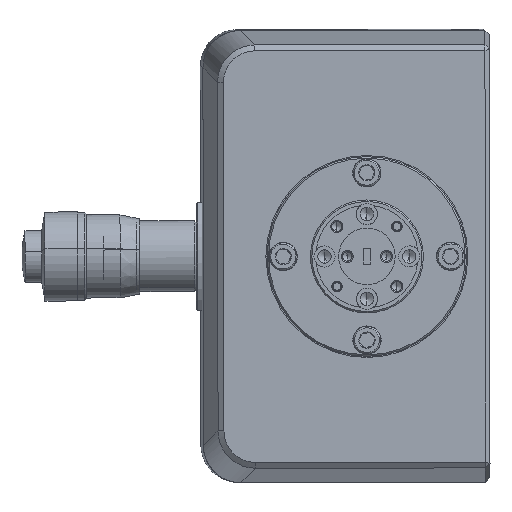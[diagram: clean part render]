
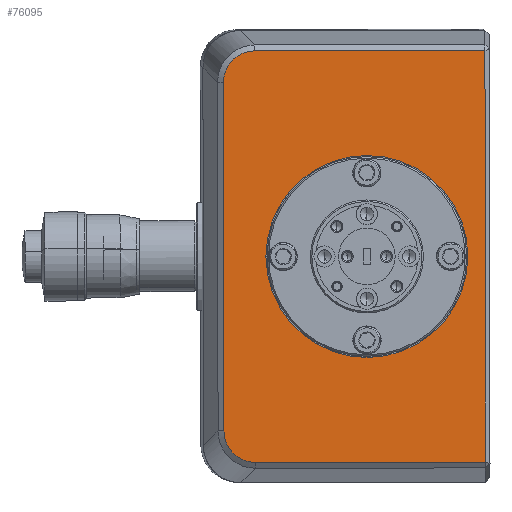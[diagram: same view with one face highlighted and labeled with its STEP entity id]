
A CAD part, left-side view. The second image highlights one B-rep face of the part: STEP entity #76095.
In plain terms, the highlighted planar face has unit normal (-1, -0.002, -0.001).
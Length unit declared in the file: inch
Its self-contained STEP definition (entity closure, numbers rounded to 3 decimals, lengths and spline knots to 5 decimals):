
#1186 = DIRECTION ( 'NONE',  ( -0.002, 1., -0.001 ) ) ;
#1215 = CARTESIAN_POINT ( 'NONE',  ( -3.34511, -6.6654, -0.16327 ) ) ;
#1710 = CIRCLE ( 'NONE', #34178, 0.67 ) ;
#5741 = DIRECTION ( 'NONE',  ( 0.001, -0.001, -1. ) ) ;
#6827 = CARTESIAN_POINT ( 'NONE',  ( -3.34498, -6.81907, 0.04042 ) ) ;
#7328 = CARTESIAN_POINT ( 'NONE',  ( -3.34507, -6.74541, 0.00403 ) ) ;
#7867 = B_SPLINE_CURVE_WITH_KNOTS ( 'NONE', 3,
 ( #22843, #99735, #23359, #92108, #21352, #15194, #75880, #92587, #76367, #22307 ),
 .UNSPECIFIED., .F., .F.,
 ( 4, 2, 2, 2, 4 ),
 ( 0., 0.25, 0.5, 0.75, 1. ),
 .UNSPECIFIED. ) ;
#8793 = CARTESIAN_POINT ( 'NONE',  ( -3.34394, -7.4802, 0.04671 ) ) ;
#10220 = VERTEX_POINT ( 'NONE', #38949 ) ;
#11951 = CARTESIAN_POINT ( 'NONE',  ( -3.34251, -8.4002, 0.0479 ) ) ;
#12339 = EDGE_CURVE ( 'NONE', #98410, #79835, #44310, .T. ) ;
#13694 = CARTESIAN_POINT ( 'NONE',  ( -3.34323, -7.48197, -1.31837 ) ) ;
#15194 = CARTESIAN_POINT ( 'NONE',  ( -3.34369, -6.74883, -2.64268 ) ) ;
#16380 = CARTESIAN_POINT ( 'NONE',  ( -3.34504, -6.76862, 0.01956 ) ) ;
#18351 = FACE_OUTER_BOUND ( 'NONE', #51627, .T. ) ;
#21352 = CARTESIAN_POINT ( 'NONE',  ( -3.34377, -6.71028, -2.60422 ) ) ;
#22307 = CARTESIAN_POINT ( 'NONE',  ( -3.34347, -6.87759, -2.68423 ) ) ;
#22843 = CARTESIAN_POINT ( 'NONE',  ( -3.34391, -6.6684, -2.47558 ) ) ;
#23074 = CARTESIAN_POINT ( 'NONE',  ( -3.34252, -7.48374, -2.68344 ) ) ;
#23359 = CARTESIAN_POINT ( 'NONE',  ( -3.34387, -6.6739, -2.53056 ) ) ;
#29415 = AXIS2_PLACEMENT_3D ( 'NONE', #37797, #75055, #38276 ) ;
#29742 = LINE ( 'NONE', #23074, #96524 ) ;
#30175 = CARTESIAN_POINT ( 'NONE',  ( -3.34512, -6.6915, -0.05777 ) ) ;
#30847 = ORIENTED_EDGE ( 'NONE', *, *, #49748, .T. ) ;
#33026 = EDGE_CURVE ( 'NONE', #43108, #43567, #1710, .T. ) ;
#34178 = AXIS2_PLACEMENT_3D ( 'NONE', #53636, #53124, #85265 ) ;
#35395 = CARTESIAN_POINT ( 'NONE',  ( -3.34391, -6.6684, -2.47558 ) ) ;
#36194 = CARTESIAN_POINT ( 'NONE',  ( -3.34337, -7.6161, -0.64819 ) ) ;
#36467 = LINE ( 'NONE', #67483, #84260 ) ;
#36837 = CARTESIAN_POINT ( 'NONE',  ( -3.34511, -6.6654, -0.16327 ) ) ;
#37581 = CIRCLE ( 'NONE', #29415, 0.67 ) ;
#37797 = CARTESIAN_POINT ( 'NONE',  ( -3.34302, -7.61697, -1.31819 ) ) ;
#38276 = DIRECTION ( 'NONE',  ( -0.001, 0.001, 1. ) ) ;
#38949 = CARTESIAN_POINT ( 'NONE',  ( -3.34347, -6.87759, -2.68423 ) ) ;
#40324 = VERTEX_POINT ( 'NONE', #50255 ) ;
#43108 = VERTEX_POINT ( 'NONE', #71232 ) ;
#43567 = VERTEX_POINT ( 'NONE', #36194 ) ;
#44310 = LINE ( 'NONE', #75454, #48308 ) ;
#46426 = ORIENTED_EDGE ( 'NONE', *, *, #33026, .F. ) ;
#46931 = ORIENTED_EDGE ( 'NONE', *, *, #47521, .T. ) ;
#47521 = EDGE_CURVE ( 'NONE', #10220, #61605, #29742, .T. ) ;
#48308 = VECTOR ( 'NONE', #5741, 39.37008 ) ;
#49748 = EDGE_CURVE ( 'NONE', #61605, #79833, #36467, .T. ) ;
#50255 = CARTESIAN_POINT ( 'NONE',  ( -3.34489, -6.87405, 0.04592 ) ) ;
#51627 = EDGE_LOOP ( 'NONE', ( #52359, #46931, #30847, #83477, #86441, #86234 ) ) ;
#52359 = ORIENTED_EDGE ( 'NONE', *, *, #80487, .T. ) ;
#53124 = DIRECTION ( 'NONE',  ( -1., -0.002, -0.001 ) ) ;
#53636 = CARTESIAN_POINT ( 'NONE',  ( -3.34302, -7.61697, -1.31819 ) ) ;
#53721 = AXIS2_PLACEMENT_3D ( 'NONE', #13694, #84993, #60002 ) ;
#55030 = LINE ( 'NONE', #8793, #87074 ) ;
#58127 = B_SPLINE_CURVE_WITH_KNOTS ( 'NONE', 3,
 ( #70920, #61709, #6827, #16380, #7328, #68889, #30175, #100381, #84676, #1215 ),
 .UNSPECIFIED., .F., .F.,
 ( 4, 2, 2, 2, 4 ),
 ( 0., 0.25, 0.5, 0.75, 1. ),
 .UNSPECIFIED. ) ;
#60002 = DIRECTION ( 'NONE',  ( 0.001, -0.001, -1. ) ) ;
#61605 = VERTEX_POINT ( 'NONE', #99519 ) ;
#61709 = CARTESIAN_POINT ( 'NONE',  ( -3.34494, -6.84656, 0.04589 ) ) ;
#63058 = EDGE_CURVE ( 'NONE', #79833, #40324, #55030, .T. ) ;
#67118 = EDGE_CURVE ( 'NONE', #43567, #43108, #37581, .T. ) ;
#67483 = CARTESIAN_POINT ( 'NONE',  ( -3.3418, -8.40197, -1.31717 ) ) ;
#68889 = CARTESIAN_POINT ( 'NONE',  ( -3.34511, -6.70695, -0.03451 ) ) ;
#70920 = CARTESIAN_POINT ( 'NONE',  ( -3.34489, -6.87405, 0.04592 ) ) ;
#71232 = CARTESIAN_POINT ( 'NONE',  ( -3.34267, -7.61784, -1.98819 ) ) ;
#73388 = FACE_BOUND ( 'NONE', #98305, .T. ) ;
#75055 = DIRECTION ( 'NONE',  ( -1., -0.002, -0.001 ) ) ;
#75454 = CARTESIAN_POINT ( 'NONE',  ( -3.34451, -6.6669, -1.31942 ) ) ;
#75880 = CARTESIAN_POINT ( 'NONE',  ( -3.34365, -6.77209, -2.65813 ) ) ;
#76095 = ADVANCED_FACE ( 'NONE', ( #18351, #73388 ), #82488, .F. ) ;
#76367 = CARTESIAN_POINT ( 'NONE',  ( -3.34351, -6.85004, -2.68427 ) ) ;
#79833 = VERTEX_POINT ( 'NONE', #11951 ) ;
#79835 = VERTEX_POINT ( 'NONE', #35395 ) ;
#80487 = EDGE_CURVE ( 'NONE', #79835, #10220, #7867, .T. ) ;
#82488 = PLANE ( 'NONE',  #53721 ) ;
#83477 = ORIENTED_EDGE ( 'NONE', *, *, #63058, .T. ) ;
#84216 = DIRECTION ( 'NONE',  ( 0.002, -1., 0.001 ) ) ;
#84260 = VECTOR ( 'NONE', #98466, 39.37008 ) ;
#84676 = CARTESIAN_POINT ( 'NONE',  ( -3.34512, -6.66536, -0.13572 ) ) ;
#84729 = EDGE_CURVE ( 'NONE', #40324, #98410, #58127, .T. ) ;
#84993 = DIRECTION ( 'NONE',  ( 1., 0.002, 0.001 ) ) ;
#85265 = DIRECTION ( 'NONE',  ( -0.001, 0.001, 1. ) ) ;
#86234 = ORIENTED_EDGE ( 'NONE', *, *, #12339, .T. ) ;
#86441 = ORIENTED_EDGE ( 'NONE', *, *, #84729, .T. ) ;
#87074 = VECTOR ( 'NONE', #1186, 39.37008 ) ;
#92108 = CARTESIAN_POINT ( 'NONE',  ( -3.34381, -6.69476, -2.58101 ) ) ;
#92587 = CARTESIAN_POINT ( 'NONE',  ( -3.34356, -6.82259, -2.67887 ) ) ;
#96524 = VECTOR ( 'NONE', #84216, 39.37008 ) ;
#98305 = EDGE_LOOP ( 'NONE', ( #98586, #46426 ) ) ;
#98410 = VERTEX_POINT ( 'NONE', #36837 ) ;
#98466 = DIRECTION ( 'NONE',  ( -0.001, 0.001, 1. ) ) ;
#98586 = ORIENTED_EDGE ( 'NONE', *, *, #67118, .F. ) ;
#99519 = CARTESIAN_POINT ( 'NONE',  ( -3.34109, -8.40374, -2.68225 ) ) ;
#99735 = CARTESIAN_POINT ( 'NONE',  ( -3.34389, -6.66843, -2.50307 ) ) ;
#100381 = CARTESIAN_POINT ( 'NONE',  ( -3.34513, -6.67076, -0.10827 ) ) ;
